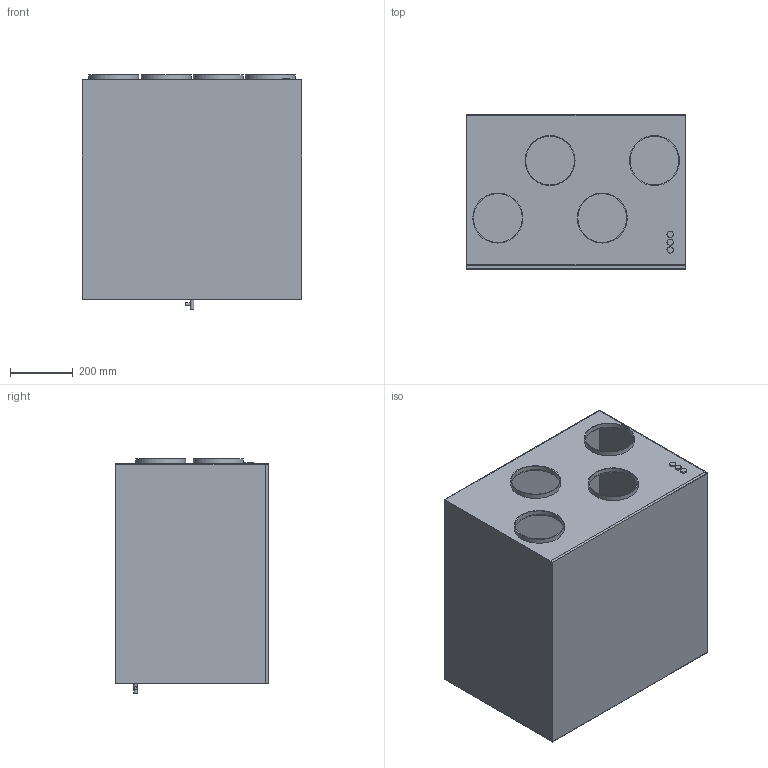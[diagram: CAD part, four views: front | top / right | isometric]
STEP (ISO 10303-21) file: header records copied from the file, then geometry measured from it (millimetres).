
FILE_DESCRIPTION(/* description */ (''),/* implementation_level */ '2;1');
FILE_NAME(/* name */ 'Z:\Output\KWL_500_W_R-40053-002.stp',/* time_stamp */ '2022-07-22T13:49:47+02:00',/* author */ ('engineering1'),/* organization */ (''),/* preprocessor_version */ 'ST-DEVELOPER v17.2',/* originating_system */ 'Autodesk Inventor 2019',/* authorisation */ '');
FILE_SCHEMA (('AUTOMOTIVE_DESIGN { 1 0 10303 214 3 1 1 }'));
Length unit declared in the file: millimetre
Products named in the file (1): KWL-6
Bounding box: 702 x 492 x 749 mm (x, y, z)
Volume: 4629429 mm3; surface area: 4626672.3 mm2
Topology: 1 solids, 1 shells, 44 faces, 89 edges, 60 vertices
Faces by surface type: plane 31, cylinder 13
Full cylindrical faces by diameter (mm): 10 x1, 12 x1, 20 x3, 156 x4, 160 x4
Entity records: 1248 total; most frequent: CARTESIAN_POINT 235, DIRECTION 205, ORIENTED_EDGE 178, EDGE_CURVE 89, AXIS2_PLACEMENT_3D 72, EDGE_LOOP 63, LINE 61, VECTOR 61
